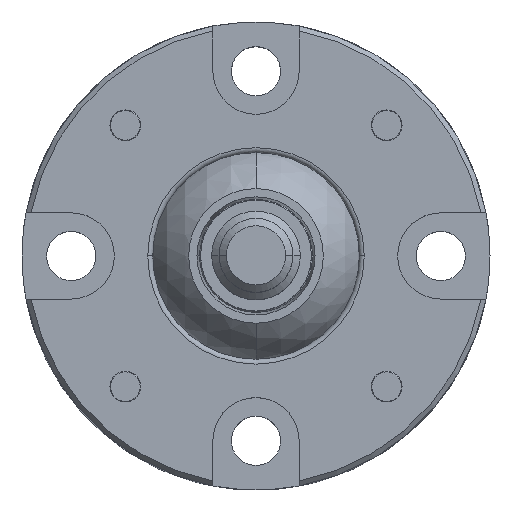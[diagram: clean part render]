
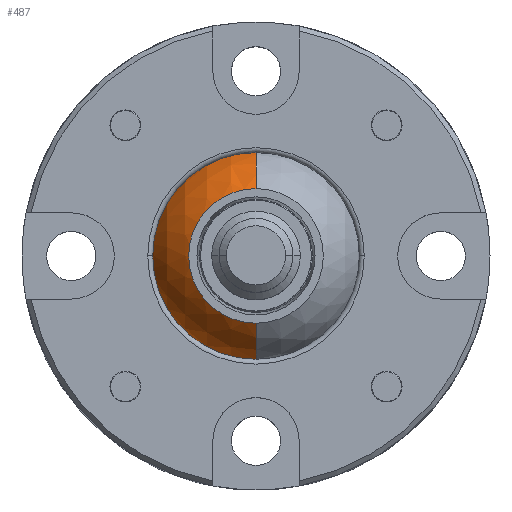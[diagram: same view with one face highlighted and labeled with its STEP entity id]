
A CAD part, top view. The second image highlights one B-rep face of the part: STEP entity #487.
In plain terms, the highlighted spherical face has radius 4.6 mm.
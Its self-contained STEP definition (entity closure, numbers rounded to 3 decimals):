
#2 = CARTESIAN_POINT ( 'NONE',  ( 0., 0., 0. ) ) ;
#82 = VERTEX_POINT ( 'NONE', #2646 ) ;
#371 = CARTESIAN_POINT ( 'NONE',  ( 0., 2.733, 3.7 ) ) ;
#432 = EDGE_CURVE ( 'NONE', #2462, #5837, #3516, .T. ) ;
#487 = ADVANCED_FACE ( 'NONE', ( #2671 ), #4187, .T. ) ;
#765 = DIRECTION ( 'NONE',  ( 0., 0., 1. ) ) ;
#990 = AXIS2_PLACEMENT_3D ( 'NONE', #4578, #6622, #6273 ) ;
#1235 = AXIS2_PLACEMENT_3D ( 'NONE', #6624, #765, #6434 ) ;
#1449 = ORIENTED_EDGE ( 'NONE', *, *, #432, .F. ) ;
#1854 = DIRECTION ( 'NONE',  ( -1., 0., 0. ) ) ;
#1946 = AXIS2_PLACEMENT_3D ( 'NONE', #2390, #1854, #2861 ) ;
#2037 = CARTESIAN_POINT ( 'NONE',  ( 0., 2.733, -3.7 ) ) ;
#2387 = CIRCLE ( 'NONE', #990, 2.733 ) ;
#2390 = CARTESIAN_POINT ( 'NONE',  ( 0., 0., 0. ) ) ;
#2462 = VERTEX_POINT ( 'NONE', #2037 ) ;
#2543 = DIRECTION ( 'NONE',  ( 1., 0., 0. ) ) ;
#2646 = CARTESIAN_POINT ( 'NONE',  ( 0., -2.733, 3.7 ) ) ;
#2671 = FACE_OUTER_BOUND ( 'NONE', #4737, .T. ) ;
#2739 = CARTESIAN_POINT ( 'NONE',  ( 0., 0., 0. ) ) ;
#2861 = DIRECTION ( 'NONE',  ( 0., 0., 1. ) ) ;
#3388 = EDGE_CURVE ( 'NONE', #2462, #5354, #2387, .T. ) ;
#3458 = ORIENTED_EDGE ( 'NONE', *, *, #4417, .F. ) ;
#3516 = CIRCLE ( 'NONE', #5977, 4.6 ) ;
#3584 = EDGE_CURVE ( 'NONE', #5354, #82, #3989, .T. ) ;
#3923 = CIRCLE ( 'NONE', #1235, 2.733 ) ;
#3989 = CIRCLE ( 'NONE', #1946, 4.6 ) ;
#4187 = SPHERICAL_SURFACE ( 'NONE', #5867, 4.6 ) ;
#4417 = EDGE_CURVE ( 'NONE', #5837, #82, #3923, .T. ) ;
#4578 = CARTESIAN_POINT ( 'NONE',  ( 0., 0., -3.7 ) ) ;
#4737 = EDGE_LOOP ( 'NONE', ( #5515, #6530, #3458, #1449 ) ) ;
#5257 = DIRECTION ( 'NONE',  ( -1., 0., 0. ) ) ;
#5354 = VERTEX_POINT ( 'NONE', #5660 ) ;
#5515 = ORIENTED_EDGE ( 'NONE', *, *, #3388, .T. ) ;
#5660 = CARTESIAN_POINT ( 'NONE',  ( 0., -2.733, -3.7 ) ) ;
#5722 = DIRECTION ( 'NONE',  ( 0., 1., 0. ) ) ;
#5837 = VERTEX_POINT ( 'NONE', #371 ) ;
#5867 = AXIS2_PLACEMENT_3D ( 'NONE', #2739, #5257, #5722 ) ;
#5977 = AXIS2_PLACEMENT_3D ( 'NONE', #2, #2543, #6602 ) ;
#6273 = DIRECTION ( 'NONE',  ( 1., 0., 0. ) ) ;
#6434 = DIRECTION ( 'NONE',  ( 1., 0., 0. ) ) ;
#6530 = ORIENTED_EDGE ( 'NONE', *, *, #3584, .T. ) ;
#6602 = DIRECTION ( 'NONE',  ( 0., 0., -1. ) ) ;
#6622 = DIRECTION ( 'NONE',  ( 0., 0., 1. ) ) ;
#6624 = CARTESIAN_POINT ( 'NONE',  ( 0., 0., 3.7 ) ) ;
